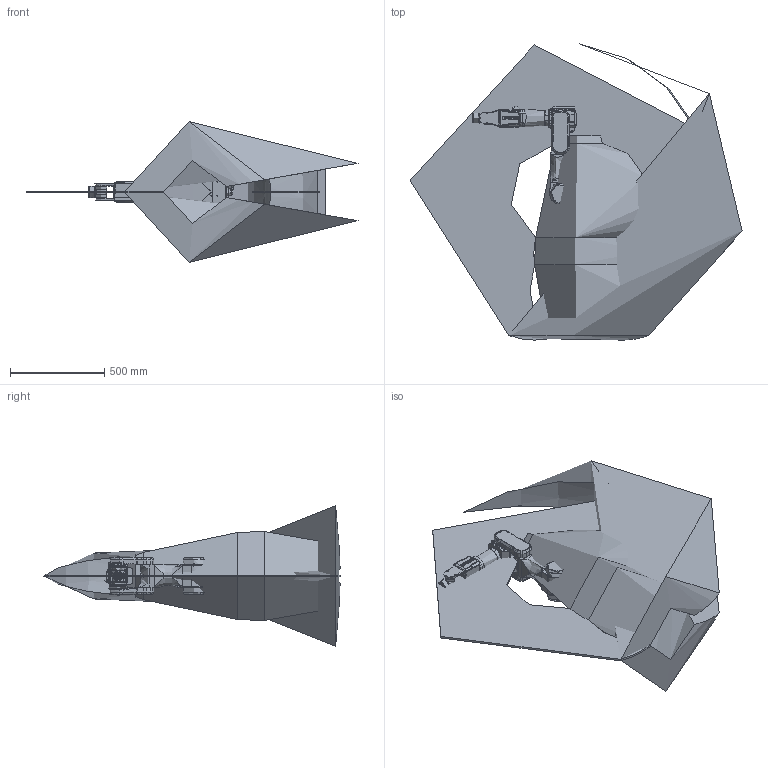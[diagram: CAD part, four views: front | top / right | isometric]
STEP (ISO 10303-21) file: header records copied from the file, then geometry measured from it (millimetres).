
FILE_DESCRIPTION( ( 'STEP AP214' ), '1' );
FILE_NAME( 'C:/Users/9607552/Desktop/C4-B901S.stp', '2024-01-23T07:10:10', ( '' ), ( '' ), ' ', 'PARTsolutions', ' ' );
FILE_SCHEMA( ( 'AUTOMOTIVE_DESIGN { 1 0 10303 214 1 1 1 1 }' ) );
Length unit declared in the file: millimetre
Products named in the file (10): C4-B901SW; _Base C4SR; _J1 C4CB; _J2 C4L (3); _J3 C4L (3); _J4 C4L (3); _J5 C4; _J6 C4; _WS C4-B901S (c4l-b-04)_1; _WS C4-B901S (c4l-b-04)_2
Assembly tree (9 placements, depth 2):
  C4-B901SW
    _Base C4SR
    _J1 C4CB
    _J2 C4L (3)
    _J3 C4L (3)
    _J4 C4L (3)
    _J5 C4
    _J6 C4
    _WS C4-B901S (c4l-b-04)_1
    _WS C4-B901S (c4l-b-04)_2
Bounding box: 1758.96 x 1569.6 x 744.39 mm (x, y, z)
Topology: 8 solids, 11 shells, 2286 faces, 5774 edges, 3671 vertices
Faces by surface type: plane 1110, cylinder 692, cone 296, torus 130, bspline 51, sphere 7
Full cylindrical faces by diameter (mm): 1 x18, 2 x1, 2.459 x2, 3.242 x15, 3.3 x5, 4 x4, 4.5 x3, 5 x1, 5.5 x13, 5.6 x5, 5.8 x7, 6 x5, 6.647 x6, 6.8 x1, 6.86 x1, 6.9 x37, 7 x12, 7.647 x2, 8 x16, 8.376 x1, 10 x5, 11 x4, 12 x7, 13 x10, 14 x9, 17 x1, 22 x1, 30 x4, 31 x1, 34 x2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
Entity records: 88845 total; most frequent: CARTESIAN_POINT 17833, DIRECTION 10991, ORIENTED_EDGE 10404, EDGE_CURVE 5202, AXIS2_PLACEMENT_3D 4284, VERTEX_POINT 3577, EDGE_LOOP 2909, FACE_OUTER_BOUND 2535
